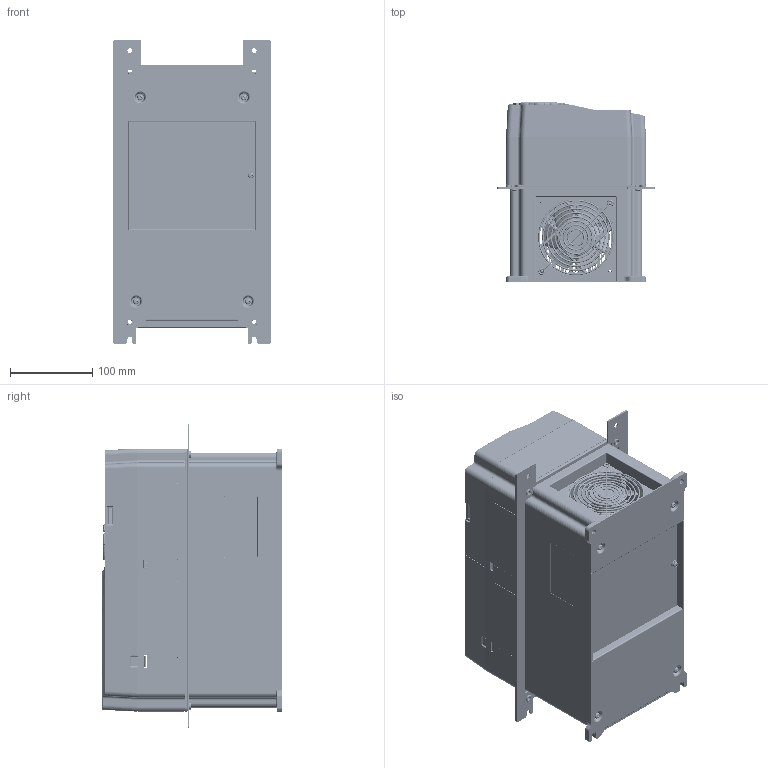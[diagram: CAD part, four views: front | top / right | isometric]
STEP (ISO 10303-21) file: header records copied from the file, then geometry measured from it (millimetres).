
FILE_DESCRIPTION((''),'2;1');
FILE_NAME('ST600-015G3_ASM','2019-07-04T',('Administrator'),(''),'PRO/ENGINEER BY PARAMETRIC TECHNOLOGY CORPORATION, 2010100','PRO/ENGINEER BY PARAMETRIC TECHNOLOGY CORPORATION, 2010100','');
FILE_SCHEMA(('CONFIG_CONTROL_DESIGN'));
Products named in the file (56): 80740009; 80740092; 80310003; 80740019; 70610008; 70610040; FENGSHANWANG; 80810122; 80810122SY; 80810121; ASM_ST600-015G3-COVER_ASM; 80740179; 80740178; 80880485; 80740163; 80740162; 80880456; 80880456SY; 40810091_ASM; 80740164; 80740164SY; 36002-00065; 39009-00082; 17003-02723_20180403; E-MJ0204-100T; 17003-02723_20180403_ASM; KEY-LCD01-ZY-600-ES_ASM; KEY-LCD01-ZY-600_ASM; GB9074_4_M4X10; GB9074_4_M4X12; GB9074_13_M5X12; GB9074_4_M3X8; 77340010; ST600-015G3-FS_ASM; 2-21-19-092; PCB_FACILITY-15KW; PCB_TERMINAL_01; PCB_FACILITY-15KW_ASM; PA1704_CT1_A2; E-DIN0309-5_08MM-TA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
Assembly tree (81 placements, depth 5):
  ST600-015G3_ASM
    80740009
    80740092
    80310003
    80740019  x4
    70610008
    70610040
    FENGSHANWANG
    ASM_ST600-015G3-COVER_ASM
      80810122
      80810122SY
      80810121
    80740179
    80740178
    80880485
    KEY-LCD01-ZY-600_ASM
      80740163
      40810091_ASM
        80740162
        80880456
        80880456SY
      80740164
      80740164SY
      KEY-LCD01-ZY-600-ES_ASM
        36002-00065
        39009-00082
        17003-02723_20180403_ASM
          17003-02723_20180403
          E-MJ0204-100T
    ST600-015G3-FS_ASM
      GB9074_4_M4X10  x8
      GB9074_4_M4X12  x7
      GB9074_13_M5X12  x2
      GB9074_4_M3X8  x3
      77340010
    ST600-015G3-ES_ASM
      2-21-19-092
      PCB_FACILITY-15KW_ASM
        PCB_FACILITY-15KW
        PCB_TERMINAL_01  x2
      0_ST600_PCB_ASM
        PA1704_CT1_A2_ASM
          PA1704_CT1_A2
          E-DIN0309-5_08MM-TA
          E-DIN0302-5_08MM-TA
          E-HEAD0207-TC
          E-USB08-TF
          E-IDC34-ORM1
          E-MJ0204-R
          E-MJ0204-100T
          KUOZHIDINGZHU  x3
    40800027_ASM
      80380188_ASM
        80380188
        S-M5-ZC  x2
      80380189_ASM
        80380189
        S-M5-ZC  x2
Bounding box: 191.2 x 219.15 x 370 mm (x, y, z)
Volume: 3280951.4 mm3; surface area: 2784228.2 mm2
Topology: 69 solids, 69 shells, 20282 faces, 56781 edges, 36791 vertices
Faces by surface type: plane 11654, cylinder 6229, extrusion 686, torus 638, bspline 486, cone 474, sphere 99, revolution 16
Entity records: 663334 total; most frequent: CARTESIAN_POINT 155959, ORIENTED_EDGE 107828, DIRECTION 100634, EDGE_CURVE 53914, VECTOR 37916, LINE 37230, VERTEX_POINT 35006, AXIS2_PLACEMENT_3D 31351
